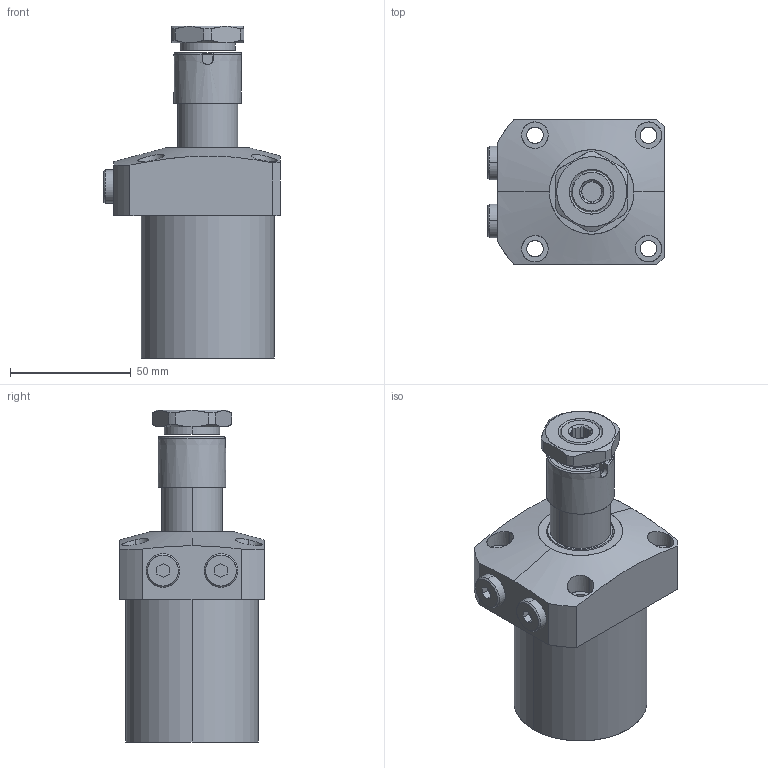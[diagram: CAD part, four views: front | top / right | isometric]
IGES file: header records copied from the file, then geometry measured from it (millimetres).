
Start section: SolidWorks IGES file using analytic representation for surfaces
Global section: file name: C:\Documents and Settings\nijil\My Documents\Clasys1\LV Series\550\0301-0201.IGS; native system: SolidWorks 2010; preprocessor: SolidWorks 2010; author: nijil; date: 130723.144831; units: millimetre
Bounding box: 73 x 60 x 137.5 mm (x, y, z)
Surface area: 34790 mm2 (no closed solid volume)
Topology: 0 solids, 0 shells, 165 faces, 3161 edges, 3161 vertices
Faces by surface type: revolution 93, bspline 72
